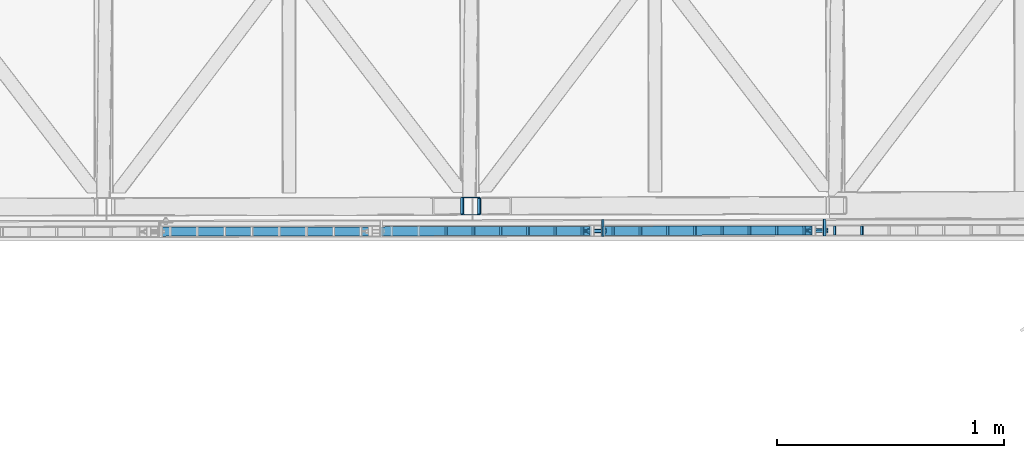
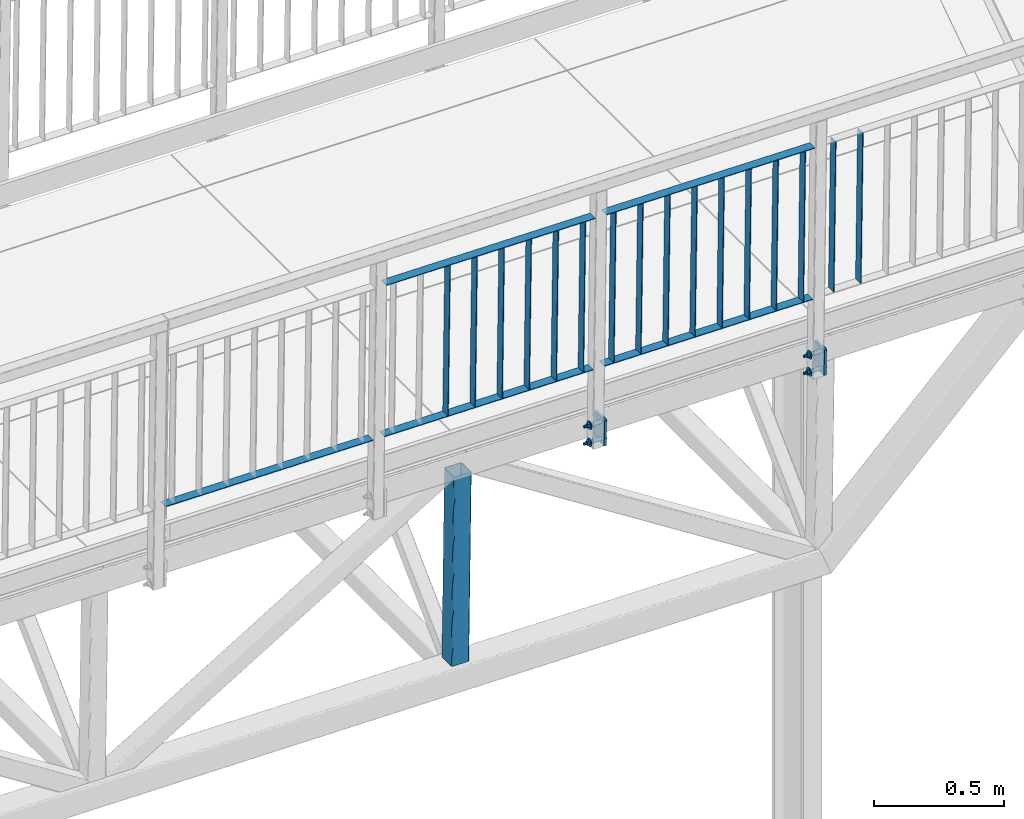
# One storey, part 118 of 169: 24 discrete accessories, 2 mechanical fasteners, 2 elements without a shape of their own.
"""IFC2X3 building model written with IfcOpenShell, lengths in millimetres."""

from ifc_helpers import new_model, si_unit, frame, origin_with_axes, origin_2d_with_axis, place, context, subcontext, project, spatial, polyline, rectangle, hollow_rectangle, circle, outline, extrude, boolean, clip, halfspace, source, transform, mapped, material, type_object, element, aggregate, save


model = new_model("IFC2X3")

# Units and contexts
model_context = context("Model", 3, precision=1e-05, world=origin_with_axes())
body_context = subcontext(model_context, "Body", "Model", "MODEL_VIEW")
ifc_project = project(units=[si_unit("LENGTHUNIT", "METRE", prefix="MILLI"), si_unit("AREAUNIT", "SQUARE_METRE"), si_unit("VOLUMEUNIT", "CUBIC_METRE"), si_unit("MASSUNIT", "GRAM", prefix="KILO"), si_unit("TIMEUNIT", "SECOND"), si_unit("PLANEANGLEUNIT", "RADIAN"), si_unit("SOLIDANGLEUNIT", "STERADIAN"), si_unit("THERMODYNAMICTEMPERATUREUNIT", "DEGREE_CELSIUS"), si_unit("LUMINOUSINTENSITYUNIT", "LUMEN")], contexts=[model_context])

# Site, building, storey
site_placement = place(None, origin_with_axes())
site = spatial("IfcSite", under=ifc_project, at=site_placement, Name="Undefined", CompositionType="ELEMENT")
building_placement = place(site_placement, origin_with_axes())
building = spatial("IfcBuilding", under=site, at=building_placement, Name="Undefined", CompositionType="ELEMENT")
storey_placement = place(building_placement, origin_with_axes())
storey = spatial("IfcBuildingStorey", under=building, at=storey_placement, Name="Undefined", CompositionType="ELEMENT", Elevation=0.0)

# Assembly, discrete accessories
assembly_1_placement = place(storey_placement, origin_with_axes())
assembly_1 = element("IfcElementAssembly", 1, at=assembly_1_placement, inside=storey, Name="Steel Assembly", AssemblyPlace="NOTDEFINED", PredefinedType="RIGID_FRAME")
ifc_material_1 = material(Name="STEEL/S235")
discrete_accessory_type_1 = type_object("IfcDiscreteAccessoryType", Name="BLACHA")
discrete_accessory_1_placement = place(assembly_1_placement, frame((17331.9124028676, 77.3354917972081, 13733.9125337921), z_axis=(-0.999917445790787, -0.00186469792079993, 0.0127131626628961), x_axis=(0.00186484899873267, -0.999998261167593, 4.28757666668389e-08)))
discrete_accessory_1 = element("IfcDiscreteAccessory", 2, at=discrete_accessory_1_placement, type_object=discrete_accessory_type_1, material=ifc_material_1, Name="BLACHA", ObjectType="BL10*120", context=body_context, shape_type="SweptSolid", body=[
    extrude(outline(polyline([(75.0000002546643, -60.0000000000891), (-5.35749222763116e-11, -59.9999999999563), (5.3567816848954e-11, 59.9999999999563), (75.0000002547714, 59.9999999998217), (75.0000002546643, -60.0000000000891)])), frame((-1.81898926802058e-12, -1.18000176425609e-16, -5.00000000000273), z_axis=(0.0, 0.0, 1.0), x_axis=(1.0, 0.0, 0.0)), (0.0, 0.0, 1.0), 10.0),
])
discrete_accessory_2_placement = place(assembly_1_placement, frame((16356.9928932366, 75.5174112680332, 13746.3078667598), z_axis=(-0.999917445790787, -0.00186469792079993, 0.0127131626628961), x_axis=(0.00186484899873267, -0.999998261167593, 4.28757666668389e-08)))
discrete_accessory_2 = element("IfcDiscreteAccessory", 3, at=discrete_accessory_2_placement, type_object=discrete_accessory_type_1, material=ifc_material_1, Name="BLACHA", ObjectType="BL10*120", context=body_context, shape_type="SweptSolid", body=[
    extrude(outline(polyline([(75.0000002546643, -60.0000000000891), (-5.35749222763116e-11, -59.9999999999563), (5.3567816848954e-11, 59.9999999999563), (75.0000002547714, 59.9999999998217), (75.0000002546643, -60.0000000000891)])), frame((-1.81898926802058e-12, -1.18000176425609e-16, -5.00000000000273), z_axis=(0.0, 0.0, 1.0), x_axis=(1.0, 0.0, 0.0)), (0.0, 0.0, 1.0), 10.0),
])
ifc_material_2 = material(Name="STEEL/S355")
discrete_accessory_type_2 = type_object("IfcDiscreteAccessoryType", Name="BEAM")
discrete_accessory_3_placement = place(assembly_1_placement, frame((15769.3185548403, 134.421550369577, 12753.6973257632), z_axis=(-0.999917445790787, -0.00186469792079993, 0.0127131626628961), x_axis=(0.012713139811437, 2.3750999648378e-05, 0.999919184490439)))
discrete_accessory_3 = element("IfcDiscreteAccessory", 4, at=discrete_accessory_3_placement, type_object=discrete_accessory_type_2, material=ifc_material_2, Name="BEAM", ObjectType="K80/4", context=body_context, shape_type="Clipping", body=[
    clip(clip(extrude(hollow_rectangle(XDim=80.0, YDim=80.0, WallThickness=4.0, InnerFilletRadius=4.0, OuterFilletRadius=8.0, at=origin_2d_with_axis()), frame((940.000112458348, 4.54747487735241e-13, 0.0), z_axis=(-1.0, -3.46944695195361e-18, -1.38777878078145e-17), x_axis=(1.73472347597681e-18, -1.0, 0.0)), (0.0, 0.0, 1.0), 880.0), halfspace(frame((940.000112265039, -6.72889655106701e-09, 999.999999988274), z_axis=(-1.0, -3.46944695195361e-18, -1.38777878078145e-17), x_axis=(1.73472347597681e-18, -1.0, 0.0)), True)), halfspace(frame((60.0001122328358, 8.14088707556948e-09, 1000.00000001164), z_axis=(1.0, 0.0, 0.0), x_axis=(0.0, 1.0, 0.0)), True)),
])
aggregate(assembly_1, [discrete_accessory_1, discrete_accessory_2, discrete_accessory_3])

# Assembly, discrete accessories, mechanical fasteners
assembly_2_placement = place(storey_placement, origin_with_axes())
assembly_2 = element("IfcElementAssembly", 5, at=assembly_2_placement, inside=storey, Name="Steel Assembly", AssemblyPlace="NOTDEFINED", PredefinedType="RIGID_FRAME")
discrete_accessory_type_3 = type_object("IfcDiscreteAccessoryType", Name="PORĘCZ")
discrete_accessory_4_placement = place(assembly_2_placement, frame((17383.7994550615, 27.4322161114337, 14893.3477720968), z_axis=(-0.0018648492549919, 0.999998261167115, -4.2996762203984e-08), x_axis=(-0.012713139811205, -2.37511238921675e-05, -0.999919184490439)))
discrete_accessory_4 = element("IfcDiscreteAccessory", 6, at=discrete_accessory_4_placement, type_object=discrete_accessory_type_3, material=ifc_material_1, Name="PORĘCZ", ObjectType="BL40*3", context=body_context, shape_type="Clipping", body=[
    clip(clip(extrude(rectangle(XDim=3.0, YDim=40.0, at=origin_2d_with_axis()), frame((848.500000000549, 1.47191286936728e-15, -8.89750592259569e-16), z_axis=(-1.0, -3.46944695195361e-18, -1.38777878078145e-17), x_axis=(1.73472347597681e-18, -1.0, 0.0)), (0.0, 0.0, 1.0), 702.0), halfspace(frame((848.499999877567, 4.522007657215e-09, 1000.00000000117), z_axis=(-1.0, -3.46944695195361e-18, -1.38777878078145e-17), x_axis=(1.73472347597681e-18, -1.0, 0.0)), True)), halfspace(frame((146.499999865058, 4.97311702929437e-09, 1000.00000000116), z_axis=(1.0, 0.0, 0.0), x_axis=(0.0, 1.0, 0.0)), True)),
])
discrete_accessory_5_placement = place(assembly_2_placement, frame((17503.7895485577, 27.6559798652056, 14891.8221926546), z_axis=(-0.0018648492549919, 0.999998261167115, -4.2996762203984e-08), x_axis=(-0.012713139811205, -2.37511238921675e-05, -0.999919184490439)))
discrete_accessory_5 = element("IfcDiscreteAccessory", 7, at=discrete_accessory_5_placement, type_object=discrete_accessory_type_3, material=ifc_material_1, Name="PORĘCZ", ObjectType="BL40*3", context=body_context, shape_type="Clipping", body=[
    clip(clip(extrude(rectangle(XDim=3.0, YDim=40.0, at=origin_2d_with_axis()), frame((848.500000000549, 1.47191286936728e-15, -8.89750592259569e-16), z_axis=(-1.0, -3.46944695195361e-18, -1.38777878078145e-17), x_axis=(1.73472347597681e-18, -1.0, 0.0)), (0.0, 0.0, 1.0), 702.0), halfspace(frame((848.499999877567, 4.522007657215e-09, 1000.00000000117), z_axis=(-1.0, -3.46944695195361e-18, -1.38777878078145e-17), x_axis=(1.73472347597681e-18, -1.0, 0.0)), True)), halfspace(frame((146.499999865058, 4.97311702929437e-09, 1000.00000000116), z_axis=(1.0, 0.0, 0.0), x_axis=(0.0, 1.0, 0.0)), True)),
])
discrete_accessory_6_placement = place(assembly_2_placement, frame((16408.8799454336, 25.6141355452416, 14905.7431050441), z_axis=(-0.0018648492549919, 0.999998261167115, -4.2996762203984e-08), x_axis=(-0.012713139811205, -2.37511238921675e-05, -0.999919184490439)))
discrete_accessory_6 = element("IfcDiscreteAccessory", 8, at=discrete_accessory_6_placement, type_object=discrete_accessory_type_3, material=ifc_material_1, Name="PORĘCZ", ObjectType="BL40*3", context=body_context, shape_type="Clipping", body=[
    clip(clip(extrude(rectangle(XDim=3.0, YDim=40.0, at=origin_2d_with_axis()), frame((848.500000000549, 1.47191286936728e-15, -8.89750592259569e-16), z_axis=(-1.0, -3.46944695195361e-18, -1.38777878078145e-17), x_axis=(1.73472347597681e-18, -1.0, 0.0)), (0.0, 0.0, 1.0), 702.0), halfspace(frame((848.499999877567, 4.522007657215e-09, 1000.00000000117), z_axis=(-1.0, -3.46944695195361e-18, -1.38777878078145e-17), x_axis=(1.73472347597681e-18, -1.0, 0.0)), True)), halfspace(frame((146.499999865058, 4.97311702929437e-09, 1000.00000000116), z_axis=(1.0, 0.0, 0.0), x_axis=(0.0, 1.0, 0.0)), True)),
])
discrete_accessory_7_placement = place(assembly_2_placement, frame((17337.509345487, 27.3458856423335, 14748.9245951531), z_axis=(-0.012713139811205, -2.37511238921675e-05, -0.999919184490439), x_axis=(-0.999917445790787, -0.00186469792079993, 0.0127131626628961)))
discrete_accessory_7 = element("IfcDiscreteAccessory", 9, at=discrete_accessory_7_placement, type_object=discrete_accessory_type_3, material=ifc_material_1, Name="PORĘCZ", ObjectType="BL40*3", context=body_context, shape_type="CSG", body=[
    boolean("DIFFERENCE", boolean("DIFFERENCE", boolean("DIFFERENCE", extrude(outline(polyline([(972.599252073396, -19.9999999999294), (48.5992522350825, -19.9999999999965), (48.5992522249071, 20.0000000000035), (972.599252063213, 20.0000000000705), (972.599252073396, -19.9999999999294)])), frame((1.81898940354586e-12, -1.77635442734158e-15, -1.50000000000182), z_axis=(0.0, 0.0, 1.0), x_axis=(1.0, 0.0, 0.0)), (0.0, 0.0, 1.0), 3.0), extrude(rectangle(XDim=51.0, YDim=51.0, at=origin_2d_with_axis()), frame((23.0992522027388, 4.79271927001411e-08, -140.000000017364), z_axis=(0.0, 0.0, 1.0), x_axis=(1.0, 0.0, 0.0)), (0.0, 0.0, 1.0), 280.0)), extrude(rectangle(XDim=51.0, YDim=51.0, at=origin_2d_with_axis()), frame((998.099252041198, 3.51939400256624e-08, -140.00000001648), z_axis=(0.0, 0.0, 1.0), x_axis=(1.0, 0.0, 0.0)), (0.0, 0.0, 1.0), 280.0)), halfspace(frame((47.5992518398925, 1000.00000001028, -5.15865394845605e-09), z_axis=(1.0, 0.0, 0.0), x_axis=(-2.54700353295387e-10, 0.0, -1.0)), True)),
])
discrete_accessory_8_placement = place(assembly_2_placement, frame((17248.8105999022, 27.1804818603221, 14895.0640489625), z_axis=(-0.0018648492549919, 0.999998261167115, -4.2996762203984e-08), x_axis=(-0.012713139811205, -2.37511238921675e-05, -0.999919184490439)))
discrete_accessory_8 = element("IfcDiscreteAccessory", 10, at=discrete_accessory_8_placement, type_object=discrete_accessory_type_3, material=ifc_material_1, Name="PORĘCZ", ObjectType="BL40*3", context=body_context, shape_type="Clipping", body=[
    clip(clip(extrude(rectangle(XDim=3.0, YDim=40.0, at=origin_2d_with_axis()), frame((848.500000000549, 1.47191286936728e-15, -8.89750592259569e-16), z_axis=(-1.0, -3.46944695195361e-18, -1.38777878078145e-17), x_axis=(1.73472347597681e-18, -1.0, 0.0)), (0.0, 0.0, 1.0), 702.0), halfspace(frame((848.499999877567, 4.522007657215e-09, 1000.00000000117), z_axis=(-1.0, -3.46944695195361e-18, -1.38777878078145e-17), x_axis=(1.73472347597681e-18, -1.0, 0.0)), True)), halfspace(frame((146.499999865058, 4.97311702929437e-09, 1000.00000000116), z_axis=(1.0, 0.0, 0.0), x_axis=(0.0, 1.0, 0.0)), True)),
])
discrete_accessory_9_placement = place(assembly_2_placement, frame((17128.8205064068, 26.9567181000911, 14896.5896284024), z_axis=(-0.0018648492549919, 0.999998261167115, -4.2996762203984e-08), x_axis=(-0.012713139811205, -2.37511238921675e-05, -0.999919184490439)))
discrete_accessory_9 = element("IfcDiscreteAccessory", 11, at=discrete_accessory_9_placement, type_object=discrete_accessory_type_3, material=ifc_material_1, Name="PORĘCZ", ObjectType="BL40*3", context=body_context, shape_type="Clipping", body=[
    clip(clip(extrude(rectangle(XDim=3.0, YDim=40.0, at=origin_2d_with_axis()), frame((848.500000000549, 1.47191286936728e-15, -8.89750592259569e-16), z_axis=(-1.0, -3.46944695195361e-18, -1.38777878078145e-17), x_axis=(1.73472347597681e-18, -1.0, 0.0)), (0.0, 0.0, 1.0), 702.0), halfspace(frame((848.499999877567, 4.522007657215e-09, 1000.00000000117), z_axis=(-1.0, -3.46944695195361e-18, -1.38777878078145e-17), x_axis=(1.73472347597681e-18, -1.0, 0.0)), True)), halfspace(frame((146.499999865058, 4.97311702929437e-09, 1000.00000000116), z_axis=(1.0, 0.0, 0.0), x_axis=(0.0, 1.0, 0.0)), True)),
])
discrete_accessory_10_placement = place(assembly_2_placement, frame((17008.8304129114, 26.7329543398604, 14898.1152078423), z_axis=(-0.0018648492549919, 0.999998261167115, -4.2996762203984e-08), x_axis=(-0.012713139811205, -2.37511238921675e-05, -0.999919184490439)))
discrete_accessory_10 = element("IfcDiscreteAccessory", 12, at=discrete_accessory_10_placement, type_object=discrete_accessory_type_3, material=ifc_material_1, Name="PORĘCZ", ObjectType="BL40*3", context=body_context, shape_type="Clipping", body=[
    clip(clip(extrude(rectangle(XDim=3.0, YDim=40.0, at=origin_2d_with_axis()), frame((848.500000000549, 1.47191286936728e-15, -8.89750592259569e-16), z_axis=(-1.0, -3.46944695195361e-18, -1.38777878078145e-17), x_axis=(1.73472347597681e-18, -1.0, 0.0)), (0.0, 0.0, 1.0), 702.0), halfspace(frame((848.499999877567, 4.522007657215e-09, 1000.00000000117), z_axis=(-1.0, -3.46944695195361e-18, -1.38777878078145e-17), x_axis=(1.73472347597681e-18, -1.0, 0.0)), True)), halfspace(frame((146.499999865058, 4.97311702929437e-09, 1000.00000000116), z_axis=(1.0, 0.0, 0.0), x_axis=(0.0, 1.0, 0.0)), True)),
])
discrete_accessory_11_placement = place(assembly_2_placement, frame((16888.840319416, 26.5091905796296, 14899.6407872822), z_axis=(-0.0018648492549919, 0.999998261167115, -4.2996762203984e-08), x_axis=(-0.012713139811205, -2.37511238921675e-05, -0.999919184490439)))
discrete_accessory_11 = element("IfcDiscreteAccessory", 13, at=discrete_accessory_11_placement, type_object=discrete_accessory_type_3, material=ifc_material_1, Name="PORĘCZ", ObjectType="BL40*3", context=body_context, shape_type="Clipping", body=[
    clip(clip(extrude(rectangle(XDim=3.0, YDim=40.0, at=origin_2d_with_axis()), frame((848.500000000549, 1.47191286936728e-15, -8.89750592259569e-16), z_axis=(-1.0, -3.46944695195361e-18, -1.38777878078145e-17), x_axis=(1.73472347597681e-18, -1.0, 0.0)), (0.0, 0.0, 1.0), 702.0), halfspace(frame((848.499999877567, 4.522007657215e-09, 1000.00000000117), z_axis=(-1.0, -3.46944695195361e-18, -1.38777878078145e-17), x_axis=(1.73472347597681e-18, -1.0, 0.0)), True)), halfspace(frame((146.499999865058, 4.97311702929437e-09, 1000.00000000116), z_axis=(1.0, 0.0, 0.0), x_axis=(0.0, 1.0, 0.0)), True)),
])
discrete_accessory_12_placement = place(assembly_2_placement, frame((16768.8502259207, 26.2854268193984, 14901.1663667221), z_axis=(-0.0018648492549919, 0.999998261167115, -4.2996762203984e-08), x_axis=(-0.012713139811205, -2.37511238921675e-05, -0.999919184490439)))
discrete_accessory_12 = element("IfcDiscreteAccessory", 14, at=discrete_accessory_12_placement, type_object=discrete_accessory_type_3, material=ifc_material_1, Name="PORĘCZ", ObjectType="BL40*3", context=body_context, shape_type="Clipping", body=[
    clip(clip(extrude(rectangle(XDim=3.0, YDim=40.0, at=origin_2d_with_axis()), frame((848.500000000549, 1.47191286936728e-15, -8.89750592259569e-16), z_axis=(-1.0, -3.46944695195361e-18, -1.38777878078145e-17), x_axis=(1.73472347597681e-18, -1.0, 0.0)), (0.0, 0.0, 1.0), 702.0), halfspace(frame((848.499999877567, 4.522007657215e-09, 1000.00000000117), z_axis=(-1.0, -3.46944695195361e-18, -1.38777878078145e-17), x_axis=(1.73472347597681e-18, -1.0, 0.0)), True)), halfspace(frame((146.499999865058, 4.97311702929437e-09, 1000.00000000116), z_axis=(1.0, 0.0, 0.0), x_axis=(0.0, 1.0, 0.0)), True)),
])
discrete_accessory_13_placement = place(assembly_2_placement, frame((16648.8601324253, 26.0616630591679, 14902.691946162), z_axis=(-0.0018648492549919, 0.999998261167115, -4.2996762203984e-08), x_axis=(-0.012713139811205, -2.37511238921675e-05, -0.999919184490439)))
discrete_accessory_13 = element("IfcDiscreteAccessory", 15, at=discrete_accessory_13_placement, type_object=discrete_accessory_type_3, material=ifc_material_1, Name="PORĘCZ", ObjectType="BL40*3", context=body_context, shape_type="Clipping", body=[
    clip(clip(extrude(rectangle(XDim=3.0, YDim=40.0, at=origin_2d_with_axis()), frame((848.500000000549, 1.47191286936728e-15, -8.89750592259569e-16), z_axis=(-1.0, -3.46944695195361e-18, -1.38777878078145e-17), x_axis=(1.73472347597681e-18, -1.0, 0.0)), (0.0, 0.0, 1.0), 702.0), halfspace(frame((848.499999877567, 4.522007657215e-09, 1000.00000000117), z_axis=(-1.0, -3.46944695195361e-18, -1.38777878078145e-17), x_axis=(1.73472347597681e-18, -1.0, 0.0)), True)), halfspace(frame((146.499999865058, 4.97311702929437e-09, 1000.00000000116), z_axis=(1.0, 0.0, 0.0), x_axis=(0.0, 1.0, 0.0)), True)),
])
discrete_accessory_14_placement = place(assembly_2_placement, frame((16528.8700389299, 25.8378992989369, 14904.217525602), z_axis=(-0.0018648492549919, 0.999998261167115, -4.2996762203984e-08), x_axis=(-0.012713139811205, -2.37511238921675e-05, -0.999919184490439)))
discrete_accessory_14 = element("IfcDiscreteAccessory", 16, at=discrete_accessory_14_placement, type_object=discrete_accessory_type_3, material=ifc_material_1, Name="PORĘCZ", ObjectType="BL40*3", context=body_context, shape_type="Clipping", body=[
    clip(clip(extrude(rectangle(XDim=3.0, YDim=40.0, at=origin_2d_with_axis()), frame((848.500000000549, 1.47191286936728e-15, -8.89750592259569e-16), z_axis=(-1.0, -3.46944695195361e-18, -1.38777878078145e-17), x_axis=(1.73472347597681e-18, -1.0, 0.0)), (0.0, 0.0, 1.0), 702.0), halfspace(frame((848.499999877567, 4.522007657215e-09, 1000.00000000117), z_axis=(-1.0, -3.46944695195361e-18, -1.38777878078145e-17), x_axis=(1.73472347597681e-18, -1.0, 0.0)), True)), halfspace(frame((146.499999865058, 4.97311702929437e-09, 1000.00000000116), z_axis=(1.0, 0.0, 0.0), x_axis=(0.0, 1.0, 0.0)), True)),
])
discrete_accessory_15_placement = place(assembly_2_placement, frame((17328.5465819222, 27.3291411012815, 14043.9815700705), z_axis=(-0.012713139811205, -2.37511238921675e-05, -0.999919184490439), x_axis=(-0.999917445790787, -0.00186469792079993, 0.0127131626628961)))
discrete_accessory_15 = element("IfcDiscreteAccessory", 17, at=discrete_accessory_15_placement, type_object=discrete_accessory_type_3, material=ifc_material_1, Name="PORĘCZ", ObjectType="BL40*3", context=body_context, shape_type="CSG", body=[
    boolean("DIFFERENCE", boolean("DIFFERENCE", boolean("DIFFERENCE", extrude(outline(polyline([(972.599252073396, -19.9999999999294), (48.5992522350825, -19.9999999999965), (48.5992522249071, 20.0000000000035), (972.599252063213, 20.0000000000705), (972.599252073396, -19.9999999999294)])), frame((1.81898940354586e-12, -1.77635442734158e-15, -1.50000000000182), z_axis=(0.0, 0.0, 1.0), x_axis=(1.0, 0.0, 0.0)), (0.0, 0.0, 1.0), 3.0), extrude(rectangle(XDim=51.0, YDim=51.0, at=origin_2d_with_axis()), frame((23.0992522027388, 4.79271927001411e-08, -140.000000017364), z_axis=(0.0, 0.0, 1.0), x_axis=(1.0, 0.0, 0.0)), (0.0, 0.0, 1.0), 280.0)), extrude(rectangle(XDim=51.0, YDim=51.0, at=origin_2d_with_axis()), frame((998.099252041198, 3.51939400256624e-08, -140.00000001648), z_axis=(0.0, 0.0, 1.0), x_axis=(1.0, 0.0, 0.0)), (0.0, 0.0, 1.0), 280.0)), halfspace(frame((47.5992518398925, 1000.00000001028, -5.15865394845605e-09), z_axis=(1.0, 0.0, 0.0), x_axis=(-2.54700353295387e-10, 0.0, -1.0)), True)),
])
discrete_accessory_16_placement = place(assembly_2_placement, frame((16362.5898358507, 25.5278050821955, 14761.3199281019), z_axis=(-0.012713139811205, -2.37511238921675e-05, -0.999919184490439), x_axis=(-0.999917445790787, -0.00186469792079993, 0.0127131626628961)))
discrete_accessory_16 = element("IfcDiscreteAccessory", 18, at=discrete_accessory_16_placement, type_object=discrete_accessory_type_3, material=ifc_material_1, Name="PORĘCZ", ObjectType="BL40*3", context=body_context, shape_type="CSG", body=[
    boolean("DIFFERENCE", boolean("DIFFERENCE", extrude(outline(polyline([(972.599252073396, -19.9999999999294), (47.599252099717, -19.9999999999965), (47.5992520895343, 20.0000000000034), (972.599252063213, 20.0000000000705), (972.599252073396, -19.9999999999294)])), frame((1.81898940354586e-12, -1.77635442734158e-15, -1.50000000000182), z_axis=(0.0, 0.0, 1.0), x_axis=(1.0, 0.0, 0.0)), (0.0, 0.0, 1.0), 3.0), extrude(rectangle(XDim=51.0, YDim=51.0, at=origin_2d_with_axis()), frame((998.099252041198, 3.51939400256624e-08, -140.00000001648), z_axis=(0.0, 0.0, 1.0), x_axis=(1.0, 0.0, 0.0)), (0.0, 0.0, 1.0), 280.0)), halfspace(frame((47.5992518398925, 1000.00000001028, -5.15865394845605e-09), z_axis=(1.0, 0.0, 0.0), x_axis=(-2.54700353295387e-10, 0.0, -1.0)), True)),
])
discrete_accessory_17_placement = place(assembly_2_placement, frame((16273.891090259, 25.3624013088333, 14907.459381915), z_axis=(-0.0018648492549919, 0.999998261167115, -4.2996762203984e-08), x_axis=(-0.012713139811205, -2.37511238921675e-05, -0.999919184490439)))
discrete_accessory_17 = element("IfcDiscreteAccessory", 19, at=discrete_accessory_17_placement, type_object=discrete_accessory_type_3, material=ifc_material_1, Name="PORĘCZ", ObjectType="BL40*3", context=body_context, shape_type="Clipping", body=[
    clip(clip(extrude(rectangle(XDim=3.0, YDim=40.0, at=origin_2d_with_axis()), frame((848.500000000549, 1.47191286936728e-15, -8.89750592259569e-16), z_axis=(-1.0, -3.46944695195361e-18, -1.38777878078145e-17), x_axis=(1.73472347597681e-18, -1.0, 0.0)), (0.0, 0.0, 1.0), 702.0), halfspace(frame((848.499999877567, 4.522007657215e-09, 1000.00000000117), z_axis=(-1.0, -3.46944695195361e-18, -1.38777878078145e-17), x_axis=(1.73472347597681e-18, -1.0, 0.0)), True)), halfspace(frame((146.499999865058, 4.97311702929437e-09, 1000.00000000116), z_axis=(1.0, 0.0, 0.0), x_axis=(0.0, 1.0, 0.0)), True)),
])
discrete_accessory_18_placement = place(assembly_2_placement, frame((16153.9009967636, 25.1386375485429, 14908.9849613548), z_axis=(-0.0018648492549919, 0.999998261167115, -4.2996762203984e-08), x_axis=(-0.012713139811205, -2.37511238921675e-05, -0.999919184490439)))
discrete_accessory_18 = element("IfcDiscreteAccessory", 20, at=discrete_accessory_18_placement, type_object=discrete_accessory_type_3, material=ifc_material_1, Name="PORĘCZ", ObjectType="BL40*3", context=body_context, shape_type="Clipping", body=[
    clip(clip(extrude(rectangle(XDim=3.0, YDim=40.0, at=origin_2d_with_axis()), frame((848.500000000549, 1.47191286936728e-15, -8.89750592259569e-16), z_axis=(-1.0, -3.46944695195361e-18, -1.38777878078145e-17), x_axis=(1.73472347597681e-18, -1.0, 0.0)), (0.0, 0.0, 1.0), 702.0), halfspace(frame((848.499999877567, 4.522007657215e-09, 1000.00000000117), z_axis=(-1.0, -3.46944695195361e-18, -1.38777878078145e-17), x_axis=(1.73472347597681e-18, -1.0, 0.0)), True)), halfspace(frame((146.499999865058, 4.97311702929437e-09, 1000.00000000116), z_axis=(1.0, 0.0, 0.0), x_axis=(0.0, 1.0, 0.0)), True)),
])
discrete_accessory_19_placement = place(assembly_2_placement, frame((16033.9109032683, 24.9148737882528, 14910.5105407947), z_axis=(-0.0018648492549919, 0.999998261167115, -4.2996762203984e-08), x_axis=(-0.012713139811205, -2.37511238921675e-05, -0.999919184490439)))
discrete_accessory_19 = element("IfcDiscreteAccessory", 21, at=discrete_accessory_19_placement, type_object=discrete_accessory_type_3, material=ifc_material_1, Name="PORĘCZ", ObjectType="BL40*3", context=body_context, shape_type="Clipping", body=[
    clip(clip(extrude(rectangle(XDim=3.0, YDim=40.0, at=origin_2d_with_axis()), frame((848.500000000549, 1.47191286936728e-15, -8.89750592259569e-16), z_axis=(-1.0, -3.46944695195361e-18, -1.38777878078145e-17), x_axis=(1.73472347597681e-18, -1.0, 0.0)), (0.0, 0.0, 1.0), 702.0), halfspace(frame((848.499999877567, 4.522007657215e-09, 1000.00000000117), z_axis=(-1.0, -3.46944695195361e-18, -1.38777878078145e-17), x_axis=(1.73472347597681e-18, -1.0, 0.0)), True)), halfspace(frame((146.499999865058, 4.97311702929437e-09, 1000.00000000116), z_axis=(1.0, 0.0, 0.0), x_axis=(0.0, 1.0, 0.0)), True)),
])
discrete_accessory_20_placement = place(assembly_2_placement, frame((15913.920809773, 24.6911100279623, 14912.0361202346), z_axis=(-0.0018648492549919, 0.999998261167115, -4.2996762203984e-08), x_axis=(-0.012713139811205, -2.37511238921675e-05, -0.999919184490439)))
discrete_accessory_20 = element("IfcDiscreteAccessory", 22, at=discrete_accessory_20_placement, type_object=discrete_accessory_type_3, material=ifc_material_1, Name="PORĘCZ", ObjectType="BL40*3", context=body_context, shape_type="Clipping", body=[
    clip(clip(extrude(rectangle(XDim=3.0, YDim=40.0, at=origin_2d_with_axis()), frame((848.500000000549, 1.47191286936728e-15, -8.89750592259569e-16), z_axis=(-1.0, -3.46944695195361e-18, -1.38777878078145e-17), x_axis=(1.73472347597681e-18, -1.0, 0.0)), (0.0, 0.0, 1.0), 702.0), halfspace(frame((848.499999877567, 4.522007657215e-09, 1000.00000000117), z_axis=(-1.0, -3.46944695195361e-18, -1.38777878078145e-17), x_axis=(1.73472347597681e-18, -1.0, 0.0)), True)), halfspace(frame((146.499999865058, 4.97311702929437e-09, 1000.00000000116), z_axis=(1.0, 0.0, 0.0), x_axis=(0.0, 1.0, 0.0)), True)),
])
discrete_accessory_21_placement = place(assembly_2_placement, frame((15793.9307162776, 24.4673462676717, 14913.5616996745), z_axis=(-0.0018648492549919, 0.999998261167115, -4.2996762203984e-08), x_axis=(-0.012713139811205, -2.37511238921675e-05, -0.999919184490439)))
discrete_accessory_21 = element("IfcDiscreteAccessory", 23, at=discrete_accessory_21_placement, type_object=discrete_accessory_type_3, material=ifc_material_1, Name="PORĘCZ", ObjectType="BL40*3", context=body_context, shape_type="Clipping", body=[
    clip(clip(extrude(rectangle(XDim=3.0, YDim=40.0, at=origin_2d_with_axis()), frame((848.500000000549, 1.47191286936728e-15, -8.89750592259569e-16), z_axis=(-1.0, -3.46944695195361e-18, -1.38777878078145e-17), x_axis=(1.73472347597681e-18, -1.0, 0.0)), (0.0, 0.0, 1.0), 702.0), halfspace(frame((848.499999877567, 4.522007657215e-09, 1000.00000000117), z_axis=(-1.0, -3.46944695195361e-18, -1.38777878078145e-17), x_axis=(1.73472347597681e-18, -1.0, 0.0)), True)), halfspace(frame((146.499999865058, 4.97311702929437e-09, 1000.00000000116), z_axis=(1.0, 0.0, 0.0), x_axis=(0.0, 1.0, 0.0)), True)),
])
discrete_accessory_22_placement = place(assembly_2_placement, frame((15673.9406227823, 24.2435825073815, 14915.0872791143), z_axis=(-0.0018648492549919, 0.999998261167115, -4.2996762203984e-08), x_axis=(-0.012713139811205, -2.37511238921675e-05, -0.999919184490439)))
discrete_accessory_22 = element("IfcDiscreteAccessory", 24, at=discrete_accessory_22_placement, type_object=discrete_accessory_type_3, material=ifc_material_1, Name="PORĘCZ", ObjectType="BL40*3", context=body_context, shape_type="Clipping", body=[
    clip(clip(extrude(rectangle(XDim=3.0, YDim=40.0, at=origin_2d_with_axis()), frame((848.500000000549, 1.47191286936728e-15, -8.89750592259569e-16), z_axis=(-1.0, -3.46944695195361e-18, -1.38777878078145e-17), x_axis=(1.73472347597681e-18, -1.0, 0.0)), (0.0, 0.0, 1.0), 702.0), halfspace(frame((848.499999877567, 4.522007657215e-09, 1000.00000000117), z_axis=(-1.0, -3.46944695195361e-18, -1.38777878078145e-17), x_axis=(1.73472347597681e-18, -1.0, 0.0)), True)), halfspace(frame((146.499999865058, 4.97311702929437e-09, 1000.00000000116), z_axis=(1.0, 0.0, 0.0), x_axis=(0.0, 1.0, 0.0)), True)),
])
discrete_accessory_23_placement = place(assembly_2_placement, frame((16353.6270722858, 25.5110605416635, 14056.3769030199), z_axis=(-0.012713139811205, -2.37511238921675e-05, -0.999919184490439), x_axis=(-0.999917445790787, -0.00186469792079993, 0.0127131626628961)))
discrete_accessory_23 = element("IfcDiscreteAccessory", 25, at=discrete_accessory_23_placement, type_object=discrete_accessory_type_3, material=ifc_material_1, Name="PORĘCZ", ObjectType="BL40*3", context=body_context, shape_type="CSG", body=[
    boolean("DIFFERENCE", boolean("DIFFERENCE", extrude(outline(polyline([(972.599252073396, -19.9999999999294), (47.599252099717, -19.9999999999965), (47.5992520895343, 20.0000000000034), (972.599252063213, 20.0000000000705), (972.599252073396, -19.9999999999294)])), frame((1.81898940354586e-12, -1.77635442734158e-15, -1.50000000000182), z_axis=(0.0, 0.0, 1.0), x_axis=(1.0, 0.0, 0.0)), (0.0, 0.0, 1.0), 3.0), extrude(rectangle(XDim=51.0, YDim=51.0, at=origin_2d_with_axis()), frame((998.099252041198, 3.51939400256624e-08, -140.00000001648), z_axis=(0.0, 0.0, 1.0), x_axis=(1.0, 0.0, 0.0)), (0.0, 0.0, 1.0), 280.0)), halfspace(frame((47.5992518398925, 1000.00000001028, -5.15865394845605e-09), z_axis=(1.0, 0.0, 0.0), x_axis=(-2.54700353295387e-10, 0.0, -1.0)), True)),
])
discrete_accessory_24_placement = place(assembly_2_placement, frame((15406.1060485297, 23.7440740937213, 14068.4238858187), z_axis=(-0.012713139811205, -2.37511238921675e-05, -0.999919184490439), x_axis=(-0.999917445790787, -0.00186469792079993, 0.0127131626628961)))
discrete_accessory_24 = element("IfcDiscreteAccessory", 26, at=discrete_accessory_24_placement, type_object=discrete_accessory_type_3, material=ifc_material_1, Name="PORĘCZ", ObjectType="BL40*3", context=body_context, shape_type="CSG", body=[
    boolean("DIFFERENCE", boolean("DIFFERENCE", boolean("DIFFERENCE", extrude(outline(polyline([(995.000000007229, -19.9999999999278), (75.0000000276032, -19.9999999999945), (75.0000000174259, 20.0000000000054), (995.000000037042, 20.0000000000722), (995.000000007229, -19.9999999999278)])), frame((1.81898940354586e-12, -1.77635442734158e-15, -1.50000000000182), z_axis=(0.0, 0.0, 1.0), x_axis=(1.0, 0.0, 0.0)), (0.0, 0.0, 1.0), 3.0), extrude(rectangle(XDim=51.0, YDim=51.0, at=origin_2d_with_axis()), frame((-5.94487782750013e-08, -4.65977194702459e-09, -139.999999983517), z_axis=(0.0, 0.0, 1.0), x_axis=(1.0, 0.0, 0.0)), (0.0, 0.0, 1.0), 280.0)), halfspace(frame((74.999999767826, 1000.00000000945, -5.07134245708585e-09), z_axis=(1.0, 0.0, 0.0), x_axis=(-2.54700353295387e-10, 0.0, -1.0)), True)), halfspace(frame((995.000000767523, 1000.00000000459, 2.61934474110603e-10), z_axis=(-1.0, -3.46944695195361e-18, -1.38777878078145e-17), x_axis=(0.0, 0.0, 1.0)), True)),
])
ifc_material_3 = material(Name="Undefined")
discrete_accessory_type_4 = type_object("IfcDiscreteAccessoryType", Name="Bolt assembly")
shared_shape = source(origin_with_axes(), body_context, "Body", "SweptSolid", [
    extrude(circle(Radius=9.0, at=origin_2d_with_axis()), frame((0.0, -4.90000000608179, 0.0), z_axis=(0.0, 1.0, 0.0), x_axis=(1.0, 0.0, 0.0)), (0.0, 0.0, 1.0), 10.0),
    extrude(circle(Radius=9.0, at=origin_2d_with_axis()), frame((0.0, 4.89999999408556, 0.0), z_axis=(0.0, 1.0, 0.0), x_axis=(1.0, 0.0, 0.0)), (0.0, 0.0, 1.0), 50.1),
    extrude(outline(polyline([(10.39230484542, 0.0), (5.19615242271, 9.00000000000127), (-5.19615242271, 9.00000000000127), (-10.39230484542, 0.0), (-5.19615242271, -9.00000000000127), (5.19615242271, -9.00000000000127), (10.39230484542, 0.0)])), frame((0.0, -15.5000000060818, 0.0), z_axis=(0.0, 1.0, 0.0), x_axis=(1.0, 0.0, 0.0)), (0.0, 0.0, 1.0), 7.5),
    extrude(circle(Radius=6.0, at=origin_2d_with_axis()), frame((0.0, -8.00000000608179, 0.0), z_axis=(0.0, 1.0, 0.0), x_axis=(1.0, 0.0, 0.0)), (0.0, 0.0, 1.0), 90.0),
    extrude(circle(Radius=18.5, at=origin_2d_with_axis()), frame((0.0, -8.00000000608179, 0.0), z_axis=(0.0, 1.0, 0.0), x_axis=(1.0, 0.0, 0.0)), (0.0, 0.0, 1.0), 3.0),
    extrude(circle(Radius=18.5, at=origin_2d_with_axis()), frame((0.0, 54.9999999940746, 0.0), z_axis=(0.0, 1.0, 0.0), x_axis=(1.0, 0.0, 0.0)), (0.0, 0.0, 1.0), 3.0),
    extrude(outline(polyline([(10.96965511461, 0.0), (5.484827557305, 9.50000000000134), (-5.484827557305, 9.50000000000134), (-10.96965511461, 0.0), (-5.484827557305, -9.50000000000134), (5.484827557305, -9.50000000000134), (10.96965511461, 0.0)])), frame((0.0, 57.9999999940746, 0.0), z_axis=(0.0, 1.0, 0.0), x_axis=(1.0, 0.0, 0.0)), (0.0, 0.0, 1.0), 10.0),
])
mechanical_fastener_1_placement = place(assembly_2_placement, frame((17332.012001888, 27.3355904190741, 13734.4124955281), z_axis=(0.0127140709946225, -0.00047624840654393, 0.999919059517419), x_axis=(-0.00185849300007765, 0.999998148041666, 0.000499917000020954)))
mechanical_fastener_1 = element("IfcMechanicalFastener", 27, at=mechanical_fastener_1_placement, type_object=discrete_accessory_type_4, material=ifc_material_3, Name="Bolt assembly", NominalDiameter=12.0, NominalLength=90.0, context=body_context, shape_type="MappedRepresentation", body=[
    mapped(shared_shape, transform((-1.15463194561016e-14, 5.45696821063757e-11, -39.9999999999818))),
    mapped(shared_shape, transform((8.88178419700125e-15, -5.54791768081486e-11, 39.99999999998))),
])
mechanical_fastener_2_placement = place(assembly_2_placement, frame((16357.0924922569, 25.517509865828, 13746.8078284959), z_axis=(0.0127140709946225, -0.00047624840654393, 0.999919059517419), x_axis=(-0.00185849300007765, 0.999998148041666, 0.000499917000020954)))
mechanical_fastener_2 = element("IfcMechanicalFastener", 28, at=mechanical_fastener_2_placement, type_object=discrete_accessory_type_4, material=ifc_material_3, Name="Bolt assembly", NominalDiameter=12.0, NominalLength=90.0, context=body_context, shape_type="MappedRepresentation", body=[
    mapped(shared_shape, transform((-1.15463194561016e-14, 5.45696821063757e-11, -39.9999999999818))),
    mapped(shared_shape, transform((8.88178419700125e-15, -5.54791768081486e-11, 39.99999999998))),
])
aggregate(assembly_2, [discrete_accessory_4, discrete_accessory_5, mechanical_fastener_1, discrete_accessory_6, discrete_accessory_7, discrete_accessory_8, discrete_accessory_9, discrete_accessory_10, discrete_accessory_11, discrete_accessory_12, discrete_accessory_13, discrete_accessory_14, discrete_accessory_15, mechanical_fastener_2, discrete_accessory_16, discrete_accessory_17, discrete_accessory_18, discrete_accessory_19, discrete_accessory_20, discrete_accessory_21, discrete_accessory_22, discrete_accessory_23, discrete_accessory_24])

save(model, "model.ifc")
